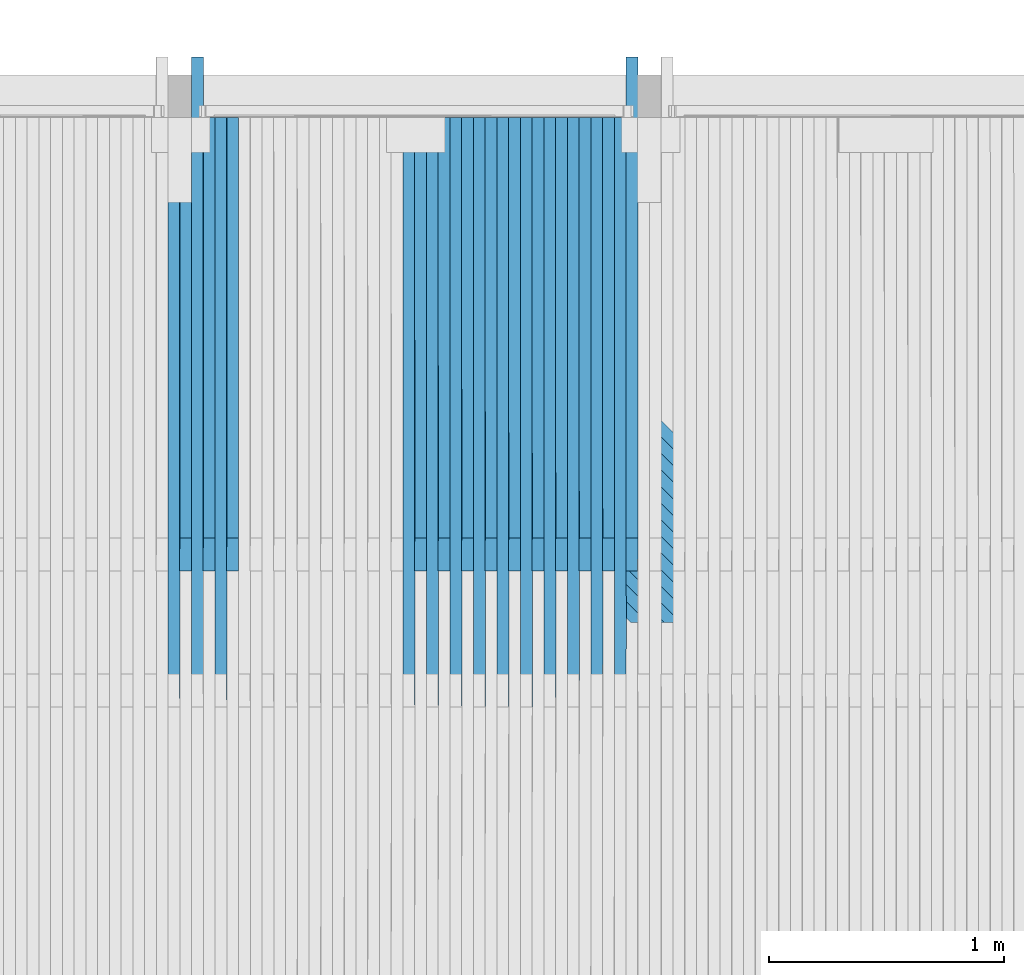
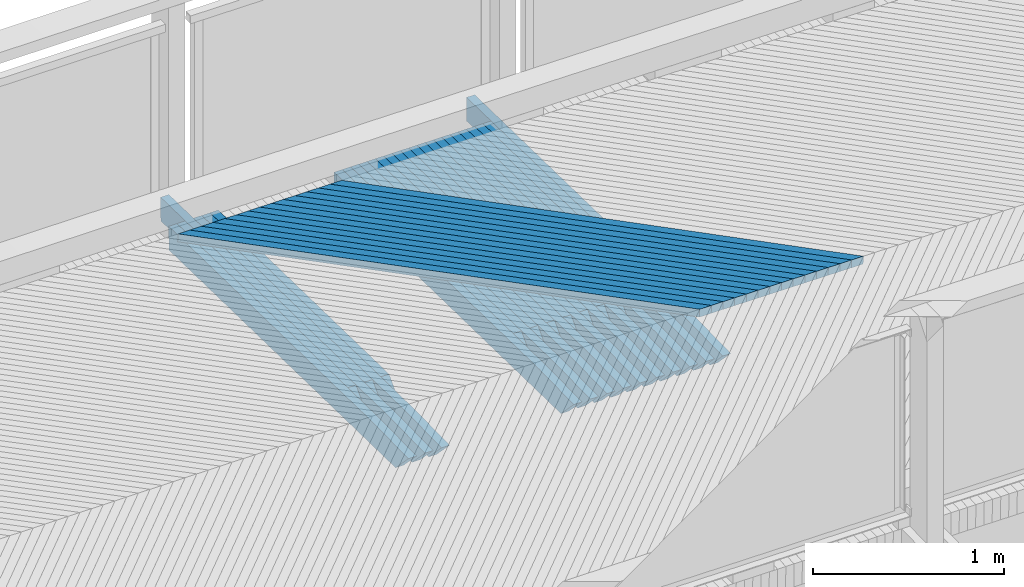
# One storey, part 37 of 65: 40 beams.
"""IFC2X3 building model written with IfcOpenShell, lengths in millimetres."""

from ifc_helpers import new_model, si_unit, frame, origin_with_axes, place, context, subcontext, project, spatial, faceted_brep, material, type_object, element, save


model = new_model("IFC2X3")

# Units and contexts
model_context = context("Model", 3, precision=1e-05, world=origin_with_axes())
body_context = subcontext(model_context, "Body", "Model", "MODEL_VIEW")
ifc_project = project(units=[si_unit("LENGTHUNIT", "METRE", prefix="MILLI"), si_unit("AREAUNIT", "SQUARE_METRE"), si_unit("VOLUMEUNIT", "CUBIC_METRE"), si_unit("MASSUNIT", "GRAM", prefix="KILO"), si_unit("TIMEUNIT", "SECOND"), si_unit("PLANEANGLEUNIT", "RADIAN"), si_unit("SOLIDANGLEUNIT", "STERADIAN"), si_unit("THERMODYNAMICTEMPERATUREUNIT", "DEGREE_CELSIUS"), si_unit("LUMINOUSINTENSITYUNIT", "LUMEN")], contexts=[model_context])

# Site, building, storey
site_placement = place(None, origin_with_axes())
site = spatial("IfcSite", under=ifc_project, at=site_placement, Name="Undefined", CompositionType="ELEMENT")
building_placement = place(site_placement, origin_with_axes())
building = spatial("IfcBuilding", under=site, at=building_placement, Name="Undefined", CompositionType="ELEMENT")
storey_placement = place(building_placement, origin_with_axes())
storey = spatial("IfcBuildingStorey", under=building, at=storey_placement, Name="Undefined", CompositionType="ELEMENT", Elevation=0.0)

# Beams
ifc_material = material(Name="TIMBER/Timber_Undefined")
beam_type_1 = type_object("IfcBeamType", Name="50*50", PredefinedType="NOTDEFINED")
for number, where, z_axis, x_axis, name in (
    (1, (12874.2769605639, 22365.4998996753, 3216.39230435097), (0.70698710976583, 0.706981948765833, -0.0185943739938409), (-0.707198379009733, 0.70694885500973, -0.0096834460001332), "BEAM"),
    (2, (12803.5550110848, 22365.4998996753, 3216.96068661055), (0.706989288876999, 0.706981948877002, -0.0185113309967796), (-0.707197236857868, 0.706948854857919, -0.00976651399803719), "BEAM"),
    (3, (12732.832995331, 22365.4998996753, 3217.52076181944), (0.706991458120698, 0.706981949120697, -0.0184282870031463), (-0.707196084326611, 0.706948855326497, -0.00984958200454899), "BEAM"),
    (4, (12662.1109142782, 22365.4998996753, 3218.07252996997), (0.706993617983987, 0.706981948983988, -0.0183452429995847), (-0.707194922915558, 0.706948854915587, -0.00993264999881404), "BEAM"),
    (5, (12591.3887689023, 22365.4998996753, 3218.61599105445), (0.706995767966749, 0.706981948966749, -0.0182621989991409), (-0.707193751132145, 0.706948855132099, -0.0100157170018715), "BEAM"),
    (6, (12520.666560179, 22365.4998996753, 3219.15114506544), (0.706997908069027, 0.706981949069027, -0.0181791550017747), (-0.707192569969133, 0.706948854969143, -0.0100987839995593), "BEAM"),
    (7, (12449.944289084, 22365.4998996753, 3219.67799199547), (0.707000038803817, 0.706981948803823, -0.0180961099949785), (-0.707191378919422, 0.706948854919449, -0.0101818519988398), "BEAM"),
    (8, (12379.2219565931, 22365.4998996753, 3220.19653183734), (0.70700215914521, 0.706981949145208, -0.0180130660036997), (-0.707190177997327, 0.706948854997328, -0.0102649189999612), "BEAM"),
    (9, (12308.499563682, 22365.4998996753, 3220.70676458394), (0.707004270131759, 0.706981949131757, -0.0179300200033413), (-0.707188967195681, 0.706948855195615, -0.0103479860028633), "BEAM"),
    (10, (12237.7771113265, 22365.4998996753, 3221.20869022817), (0.707006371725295, 0.706981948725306, -0.0178469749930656), (-0.707187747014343, 0.706948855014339, -0.0104310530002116), "BEAM"),
    (11, (12167.0546005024, 22365.4998996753, 3221.70230876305), (0.707008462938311, 0.706981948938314, -0.0177639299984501), (-0.70718651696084, 0.706948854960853, -0.0105141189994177), "BEAM"),
    (12, (12096.3320321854, 22365.4998996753, 3222.18762018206), (0.707010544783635, 0.706981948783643, -0.017680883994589), (-0.707185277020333, 0.706948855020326, -0.0105971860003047), "BEAM"),
    (13, (12025.6094073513, 22365.4998996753, 3222.66462447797), (0.70701261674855, 0.706981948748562, -0.0175978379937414), (-0.707184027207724, 0.706948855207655, -0.0106802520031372), "BEAM"),
    (14, (11954.8867269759, 22365.4998996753, 3223.13332164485), (0.707014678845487, 0.706981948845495, -0.0175147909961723), (-0.707182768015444, 0.706948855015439, -0.0107633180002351), "BEAM"),
):
    element("IfcBeam", number, at=place(storey_placement, frame(where, z_axis=z_axis, x_axis=x_axis)), inside=storey, type_object=beam_type_1, material=ifc_material, Name=name, ObjectType="50*50", context=body_context, shape_type="Brep", body=[
        faceted_brep([(23.5869248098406, 24.9999999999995, -24.9999999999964), (-26.4154158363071, 24.9999999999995, 24.9999999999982), (2802.92643296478, 25.0, 25.0), (2852.92877373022, 25.0000000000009, -25.0), (-25.0011704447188, -25.0, 24.9999999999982), (2804.34067830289, -25.0, 25.0000000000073), (25.0011701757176, -25.0000000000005, -24.9999999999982), (2854.34301907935, -24.9999999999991, -25.0000000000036)], [[[0, 1, 2, 3]], [[1, 4, 5, 2]], [[4, 6, 7, 5]], [[6, 0, 3, 7]], [[5, 7, 3, 2]], [[6, 4, 1, 0]]]),
    ])
beam_type_2 = type_object("IfcBeamType", Name="150*50", PredefinedType="NOTDEFINED")
for number, where, z_axis, x_axis, name in (
    (15, (11875.3256007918, 24513.4953923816, 3080.67367306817), (0.0063570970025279, 0.0199960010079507, 0.999779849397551), (0.000127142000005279, -0.99980006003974, 0.0199955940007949), "BEAM"),
    (16, (11775.3075869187, 24513.4953923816, 3081.30926986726), (0.00619097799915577, 0.019996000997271, 0.999780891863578), (0.000123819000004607, -0.999800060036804, 0.019995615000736), "BEAM"),
):
    element("IfcBeam", number, at=place(storey_placement, frame(where, z_axis=z_axis, x_axis=x_axis)), inside=storey, type_object=beam_type_2, material=ifc_material, Name=name, ObjectType="150*50", context=body_context, shape_type="Brep", body=[
        faceted_brep([(-1.6778358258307e-07, -24.9999999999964, -74.9999999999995), (-1.6778358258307e-07, 25.0000000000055, -75.0), (2375.00494422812, 25.0000000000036, -75.0), (2375.00494447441, -24.9999999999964, -74.9999999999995), (1.67790858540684e-07, -24.9999999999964, 75.0000000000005), (1.67790858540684e-07, 25.0000000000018, 74.9999999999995), (2150.42515052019, 25.0000000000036, 74.9999999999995), (2510.59248715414, 25.0000000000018, 60.5875433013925), (2510.59248714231, -24.9999999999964, 60.5875430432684), (2150.42514405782, -24.9999999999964, 75.0000000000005)], [[[0, 1, 2, 3]], [[0, 4, 5, 1]], [[2, 1, 5, 6, 7]], [[3, 2, 7, 8]], [[4, 0, 3, 8, 9]], [[5, 4, 9, 6]], [[8, 7, 6, 9]]]),
    ])
beam_1_placement = place(storey_placement, frame((11825.3266087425, 24513.4953923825, 3080.99122584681), z_axis=(0.0063570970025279, 0.0199960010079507, 0.999779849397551), x_axis=(0.000127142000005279, -0.99980006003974, 0.0199955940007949)))
element("IfcBeam", 17, at=beam_1_placement, inside=storey, type_object=beam_type_2, material=ifc_material, Name="BEAM", ObjectType="150*50", context=body_context, shape_type="Brep", body=[
    faceted_brep([(-1.6778358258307e-07, -24.9999999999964, -74.9999999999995), (1.67790858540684e-07, -24.9999999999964, 75.0000000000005), (1.67790858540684e-07, 25.0000000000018, 74.9999999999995), (-1.6778358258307e-07, 25.0000000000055, -75.0), (1789.96936408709, 24.9999999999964, 75.0), (1928.42646328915, 24.9999999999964, -75.0), (1928.42646353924, -25.0, -75.0000000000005), (1789.96936433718, -25.0000000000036, 74.9999999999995)], [[[0, 1, 2, 3]], [[3, 2, 4, 5]], [[0, 3, 5, 6]], [[1, 0, 6, 7]], [[2, 1, 7, 4]], [[5, 4, 7, 6]]]),
])
beam_2_placement = place(storey_placement, frame((11675.2894688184, 24513.4953923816, 3081.92824813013), z_axis=(0.00602485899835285, 0.0199960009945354, 0.9997819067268), x_axis=(0.000120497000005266, -0.9998000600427, 0.019995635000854)))
element("IfcBeam", 18, at=beam_2_placement, inside=storey, type_object=beam_type_2, material=ifc_material, Name="BEAM", ObjectType="150*50", context=body_context, shape_type="Brep", body=[
    faceted_brep([(-1.6778358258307e-07, -24.9999999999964, -74.9999999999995), (-1.6778358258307e-07, 25.0000000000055, -75.0), (2375.00494422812, 25.0000000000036, -75.0), (2375.00494447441, -24.9999999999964, -74.9999999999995), (1.67790858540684e-07, -24.9999999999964, 75.0000000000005), (1.67790858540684e-07, 25.0000000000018, 74.9999999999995), (2150.42515052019, 25.0000000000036, 74.9999999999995), (2510.59248715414, 25.0000000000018, 60.5875433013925), (2510.59248714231, -24.9999999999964, 60.5875430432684), (2150.42514405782, -24.9999999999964, 75.0000000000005)], [[[0, 1, 2, 3]], [[0, 4, 5, 1]], [[2, 1, 5, 6, 7]], [[3, 2, 7, 8]], [[4, 0, 3, 8, 9]], [[5, 4, 9, 6]], [[8, 7, 6, 9]]]),
])
beam_3_placement = place(storey_placement, frame((11725.3085427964, 24513.4953923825, 3081.61851504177), z_axis=(0.00619097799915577, 0.019996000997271, 0.999780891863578), x_axis=(0.000123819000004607, -0.999800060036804, 0.019995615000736)))
element("IfcBeam", 19, at=beam_3_placement, inside=storey, type_object=beam_type_2, material=ifc_material, Name="BEAM", ObjectType="150*50", context=body_context, shape_type="Brep", body=[
    faceted_brep([(-1.6778358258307e-07, -24.9999999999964, -74.9999999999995), (1.67790858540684e-07, -24.9999999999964, 75.0000000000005), (1.67790858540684e-07, 25.0000000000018, 74.9999999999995), (-1.6778358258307e-07, 25.0000000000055, -75.0), (1789.96936408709, 24.9999999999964, 75.0), (1928.42646328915, 24.9999999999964, -75.0), (1928.42646353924, -25.0, -75.0000000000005), (1789.96936433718, -25.0000000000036, 74.9999999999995)], [[[0, 1, 2, 3]], [[3, 2, 4, 5]], [[0, 3, 5, 6]], [[1, 0, 6, 7]], [[2, 1, 7, 4]], [[5, 4, 7, 6]]]),
])
beam_4_placement = place(storey_placement, frame((11575.2712492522, 24513.4953923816, 3082.53060783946), z_axis=(0.00585873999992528, 0.0199960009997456, 0.999782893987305), x_axis=(0.000117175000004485, -0.999800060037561, 0.0199956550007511)))
element("IfcBeam", 20, at=beam_4_placement, inside=storey, type_object=beam_type_2, material=ifc_material, Name="BEAM", ObjectType="150*50", context=body_context, shape_type="Brep", body=[
    faceted_brep([(-1.6778358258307e-07, -24.9999999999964, -74.9999999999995), (-1.6778358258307e-07, 25.0000000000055, -75.0), (2375.00494422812, 25.0000000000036, -75.0), (2375.00494447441, -24.9999999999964, -74.9999999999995), (1.67790858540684e-07, -24.9999999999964, 75.0000000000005), (1.67790858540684e-07, 25.0000000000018, 74.9999999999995), (2150.42515052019, 25.0000000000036, 74.9999999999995), (2510.59248715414, 25.0000000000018, 60.5875433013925), (2510.59248714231, -24.9999999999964, 60.5875430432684), (2150.42514405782, -24.9999999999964, 75.0000000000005)], [[[0, 1, 2, 3]], [[0, 4, 5, 1]], [[2, 1, 5, 6, 7]], [[3, 2, 7, 8]], [[4, 0, 3, 8, 9]], [[5, 4, 9, 6]], [[8, 7, 6, 9]]]),
])
beam_5_placement = place(storey_placement, frame((11625.2903740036, 24513.4953923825, 3082.22918569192), z_axis=(0.00602485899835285, 0.0199960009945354, 0.9997819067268), x_axis=(0.000120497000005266, -0.9998000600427, 0.019995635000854)))
element("IfcBeam", 21, at=beam_5_placement, inside=storey, type_object=beam_type_2, material=ifc_material, Name="BEAM", ObjectType="150*50", context=body_context, shape_type="Brep", body=[
    faceted_brep([(-1.6778358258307e-07, -24.9999999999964, -74.9999999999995), (1.67790858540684e-07, -24.9999999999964, 75.0000000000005), (1.67790858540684e-07, 25.0000000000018, 74.9999999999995), (-1.6778358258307e-07, 25.0000000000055, -75.0), (1789.96936408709, 24.9999999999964, 75.0), (1928.42646328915, 24.9999999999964, -75.0), (1928.42646353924, -25.0, -75.0000000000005), (1789.96936433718, -25.0000000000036, 74.9999999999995)], [[[0, 1, 2, 3]], [[3, 2, 4, 5]], [[0, 3, 5, 6]], [[1, 0, 6, 7]], [[2, 1, 7, 4]], [[5, 4, 7, 6]]]),
])
beam_6_placement = place(storey_placement, frame((11475.2529309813, 24513.4953923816, 3083.11634897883), z_axis=(0.00569262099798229, 0.0199960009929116, 0.999783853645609), x_axis=(0.000113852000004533, -0.999800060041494, 0.0199956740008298)))
element("IfcBeam", 22, at=beam_6_placement, inside=storey, type_object=beam_type_2, material=ifc_material, Name="BEAM", ObjectType="150*50", context=body_context, shape_type="Brep", body=[
    faceted_brep([(-1.6778358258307e-07, -24.9999999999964, -74.9999999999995), (-1.6778358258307e-07, 25.0000000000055, -75.0), (2375.00494422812, 25.0000000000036, -75.0), (2375.00494447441, -24.9999999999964, -74.9999999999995), (1.67790858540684e-07, -24.9999999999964, 75.0000000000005), (1.67790858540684e-07, 25.0000000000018, 74.9999999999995), (2150.42515052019, 25.0000000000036, 74.9999999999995), (2510.59248715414, 25.0000000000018, 60.5875433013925), (2510.59248714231, -24.9999999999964, 60.5875430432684), (2150.42514405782, -24.9999999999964, 75.0000000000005)], [[[0, 1, 2, 3]], [[0, 4, 5, 1]], [[2, 1, 5, 6, 7]], [[3, 2, 7, 8]], [[4, 0, 3, 8, 9]], [[5, 4, 9, 6]], [[8, 7, 6, 9]]]),
])
beam_7_placement = place(storey_placement, frame((11525.2721051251, 24513.4953923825, 3082.82323778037), z_axis=(0.00585873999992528, 0.0199960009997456, 0.999782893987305), x_axis=(0.000117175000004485, -0.999800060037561, 0.0199956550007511)))
element("IfcBeam", 23, at=beam_7_placement, inside=storey, type_object=beam_type_2, material=ifc_material, Name="BEAM", ObjectType="150*50", context=body_context, shape_type="Brep", body=[
    faceted_brep([(-1.6778358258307e-07, -24.9999999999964, -74.9999999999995), (1.67790858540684e-07, -24.9999999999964, 75.0000000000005), (1.67790858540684e-07, 25.0000000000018, 74.9999999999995), (-1.6778358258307e-07, 25.0000000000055, -75.0), (1789.96936408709, 24.9999999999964, 75.0), (1928.42646328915, 24.9999999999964, -75.0), (1928.42646353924, -25.0, -75.0000000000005), (1789.96936433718, -25.0000000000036, 74.9999999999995)], [[[0, 1, 2, 3]], [[3, 2, 4, 5]], [[0, 3, 5, 6]], [[1, 0, 6, 7]], [[2, 1, 7, 4]], [[5, 4, 7, 6]]]),
])
beam_8_placement = place(storey_placement, frame((11375.234516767, 24513.4953923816, 3083.68547153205), z_axis=(0.00552650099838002, 0.0199960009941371, 0.999784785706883), x_axis=(0.000110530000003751, -0.999800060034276, 0.0199956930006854)))
element("IfcBeam", 24, at=beam_8_placement, inside=storey, type_object=beam_type_2, material=ifc_material, Name="BEAM", ObjectType="150*50", context=body_context, shape_type="Brep", body=[
    faceted_brep([(-1.6778358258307e-07, -24.9999999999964, -74.9999999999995), (-1.6778358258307e-07, 25.0000000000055, -75.0), (2375.00494422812, 25.0000000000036, -75.0), (2375.00494447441, -24.9999999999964, -74.9999999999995), (1.67790858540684e-07, -24.9999999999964, 75.0000000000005), (1.67790858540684e-07, 25.0000000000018, 74.9999999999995), (2150.42515052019, 25.0000000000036, 74.9999999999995), (2510.59248715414, 25.0000000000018, 60.5875433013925), (2510.59248714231, -24.9999999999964, 60.5875430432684), (2150.42514405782, -24.9999999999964, 75.0000000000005)], [[[0, 1, 2, 3]], [[0, 4, 5, 1]], [[2, 1, 5, 6, 7]], [[3, 2, 7, 8]], [[4, 0, 3, 8, 9]], [[5, 4, 9, 6]], [[8, 7, 6, 9]]]),
])
beam_9_placement = place(storey_placement, frame((11425.2537389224, 24513.4953923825, 3083.4006712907), z_axis=(0.00569262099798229, 0.0199960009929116, 0.999783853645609), x_axis=(0.000113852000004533, -0.999800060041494, 0.0199956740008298)))
element("IfcBeam", 25, at=beam_9_placement, inside=storey, type_object=beam_type_2, material=ifc_material, Name="BEAM", ObjectType="150*50", context=body_context, shape_type="Brep", body=[
    faceted_brep([(-1.6778358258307e-07, -24.9999999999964, -74.9999999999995), (1.67790858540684e-07, -24.9999999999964, 75.0000000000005), (1.67790858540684e-07, 25.0000000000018, 74.9999999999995), (-1.6778358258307e-07, 25.0000000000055, -75.0), (1789.96936408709, 24.9999999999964, 75.0), (1928.42646328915, 24.9999999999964, -75.0), (1928.42646353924, -25.0, -75.0000000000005), (1789.96936433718, -25.0000000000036, 74.9999999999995)], [[[0, 1, 2, 3]], [[3, 2, 4, 5]], [[0, 3, 5, 6]], [[1, 0, 6, 7]], [[2, 1, 7, 4]], [[5, 4, 7, 6]]]),
])
beam_10_placement = place(storey_placement, frame((11275.2160093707, 24513.4953923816, 3084.23797548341), z_axis=(0.00536038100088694, 0.0199960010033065, 0.999785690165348), x_axis=(0.000107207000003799, -0.999800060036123, 0.0199957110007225)))
element("IfcBeam", 26, at=beam_10_placement, inside=storey, type_object=beam_type_2, material=ifc_material, Name="BEAM", ObjectType="150*50", context=body_context, shape_type="Brep", body=[
    faceted_brep([(-1.6778358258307e-07, -24.9999999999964, -74.9999999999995), (-1.6778358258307e-07, 25.0000000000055, -75.0), (2375.00494422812, 25.0000000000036, -75.0), (2375.00494447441, -24.9999999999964, -74.9999999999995), (1.67790858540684e-07, -24.9999999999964, 75.0000000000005), (1.67790858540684e-07, 25.0000000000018, 74.9999999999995), (2150.42515052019, 25.0000000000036, 74.9999999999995), (2510.59248715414, 25.0000000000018, 60.5875433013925), (2510.59248714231, -24.9999999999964, 60.5875430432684), (2150.42514405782, -24.9999999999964, 75.0000000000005)], [[[0, 1, 2, 3]], [[0, 4, 5, 1]], [[2, 1, 5, 6, 7]], [[3, 2, 7, 8]], [[4, 0, 3, 8, 9]], [[5, 4, 9, 6]], [[8, 7, 6, 9]]]),
])
beam_11_placement = place(storey_placement, frame((11325.2352781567, 24513.4953923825, 3083.96148620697), z_axis=(0.00552650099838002, 0.0199960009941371, 0.999784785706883), x_axis=(0.000110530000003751, -0.999800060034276, 0.0199956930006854)))
element("IfcBeam", 27, at=beam_11_placement, inside=storey, type_object=beam_type_2, material=ifc_material, Name="BEAM", ObjectType="150*50", context=body_context, shape_type="Brep", body=[
    faceted_brep([(-1.6778358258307e-07, -24.9999999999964, -74.9999999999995), (1.67790858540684e-07, -24.9999999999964, 75.0000000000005), (1.67790858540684e-07, 25.0000000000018, 74.9999999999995), (-1.6778358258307e-07, 25.0000000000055, -75.0), (1789.96936408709, 24.9999999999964, 75.0), (1928.42646328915, 24.9999999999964, -75.0), (1928.42646353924, -25.0, -75.0000000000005), (1789.96936433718, -25.0000000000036, 74.9999999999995)], [[[0, 1, 2, 3]], [[3, 2, 4, 5]], [[0, 3, 5, 6]], [[1, 0, 6, 7]], [[2, 1, 7, 4]], [[5, 4, 7, 6]]]),
])
beam_12_placement = place(storey_placement, frame((11175.1974115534, 24513.4953923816, 3084.77386081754), z_axis=(0.00519426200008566, 0.0199960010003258, 0.999786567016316), x_axis=(0.000103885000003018, -0.999800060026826, 0.0199957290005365)))
element("IfcBeam", 28, at=beam_12_placement, inside=storey, type_object=beam_type_2, material=ifc_material, Name="BEAM", ObjectType="150*50", context=body_context, shape_type="Brep", body=[
    faceted_brep([(-1.6778358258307e-07, -24.9999999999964, -74.9999999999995), (-1.6778358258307e-07, 25.0000000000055, -75.0), (2375.00494422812, 25.0000000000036, -75.0), (2375.00494447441, -24.9999999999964, -74.9999999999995), (1.67790858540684e-07, -24.9999999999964, 75.0000000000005), (1.67790858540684e-07, 25.0000000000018, 74.9999999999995), (2150.42515052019, 25.0000000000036, 74.9999999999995), (2510.59248715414, 25.0000000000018, 60.5875433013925), (2510.59248714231, -24.9999999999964, 60.5875430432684), (2150.42514405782, -24.9999999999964, 75.0000000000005)], [[[0, 1, 2, 3]], [[0, 4, 5, 1]], [[2, 1, 5, 6, 7]], [[3, 2, 7, 8]], [[4, 0, 3, 8, 9]], [[5, 4, 9, 6]], [[8, 7, 6, 9]]]),
])
beam_13_placement = place(storey_placement, frame((11225.2167255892, 24513.4953923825, 3084.50568251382), z_axis=(0.00536038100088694, 0.0199960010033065, 0.999785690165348), x_axis=(0.000107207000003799, -0.999800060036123, 0.0199957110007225)))
element("IfcBeam", 29, at=beam_13_placement, inside=storey, type_object=beam_type_2, material=ifc_material, Name="BEAM", ObjectType="150*50", context=body_context, shape_type="Brep", body=[
    faceted_brep([(-1.6778358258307e-07, -24.9999999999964, -74.9999999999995), (1.67790858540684e-07, -24.9999999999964, 75.0000000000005), (1.67790858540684e-07, 25.0000000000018, 74.9999999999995), (-1.6778358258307e-07, 25.0000000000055, -75.0), (1789.96936408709, 24.9999999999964, 75.0), (1928.42646328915, 24.9999999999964, -75.0), (1928.42646353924, -25.0, -75.0000000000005), (1789.96936433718, -25.0000000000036, 74.9999999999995)], [[[0, 1, 2, 3]], [[3, 2, 4, 5]], [[0, 3, 5, 6]], [[1, 0, 6, 7]], [[2, 1, 7, 4]], [[5, 4, 7, 6]]]),
])
beam_14_placement = place(storey_placement, frame((11075.1787260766, 24513.4953923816, 3085.29312751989), z_axis=(0.005028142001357, 0.0199960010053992, 0.999787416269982), x_axis=(0.000100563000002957, -0.999800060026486, 0.0199957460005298)))
element("IfcBeam", 30, at=beam_14_placement, inside=storey, type_object=beam_type_2, material=ifc_material, Name="BEAM", ObjectType="150*50", context=body_context, shape_type="Brep", body=[
    faceted_brep([(-1.6778358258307e-07, -24.9999999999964, -74.9999999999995), (-1.6778358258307e-07, 25.0000000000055, -75.0), (2375.00494422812, 25.0000000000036, -75.0), (2375.00494447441, -24.9999999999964, -74.9999999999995), (1.67790858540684e-07, -24.9999999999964, 75.0000000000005), (1.67790858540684e-07, 25.0000000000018, 74.9999999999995), (2150.42515052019, 25.0000000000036, 74.9999999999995), (2510.59248715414, 25.0000000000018, 60.5875433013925), (2510.59248714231, -24.9999999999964, 60.5875430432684), (2150.42514405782, -24.9999999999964, 75.0000000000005)], [[[0, 1, 2, 3]], [[0, 4, 5, 1]], [[2, 1, 5, 6, 7]], [[3, 2, 7, 8]], [[4, 0, 3, 8, 9]], [[5, 4, 9, 6]], [[8, 7, 6, 9]]]),
])
beam_15_placement = place(storey_placement, frame((11125.1980839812, 24513.4953923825, 3085.03326019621), z_axis=(0.00519426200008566, 0.0199960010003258, 0.999786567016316), x_axis=(0.000103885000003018, -0.999800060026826, 0.0199957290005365)))
element("IfcBeam", 31, at=beam_15_placement, inside=storey, type_object=beam_type_2, material=ifc_material, Name="BEAM", ObjectType="150*50", context=body_context, shape_type="Brep", body=[
    faceted_brep([(-1.6778358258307e-07, -24.9999999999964, -74.9999999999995), (1.67790858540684e-07, -24.9999999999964, 75.0000000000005), (1.67790858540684e-07, 25.0000000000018, 74.9999999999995), (-1.6778358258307e-07, 25.0000000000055, -75.0), (1789.96936408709, 24.9999999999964, 75.0), (1928.42646328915, 24.9999999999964, -75.0), (1928.42646353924, -25.0, -75.0000000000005), (1789.96936433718, -25.0000000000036, 74.9999999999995)], [[[0, 1, 2, 3]], [[3, 2, 4, 5]], [[0, 3, 5, 6]], [[1, 0, 6, 7]], [[2, 1, 7, 4]], [[5, 4, 7, 6]]]),
])
beam_16_placement = place(storey_placement, frame((10975.1599557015, 24513.4953923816, 3085.79577557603), z_axis=(0.00486202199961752, 0.0199960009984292, 0.999788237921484), x_axis=(9.72400000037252e-05, -0.999800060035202, 0.019995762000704)))
element("IfcBeam", 32, at=beam_16_placement, inside=storey, type_object=beam_type_2, material=ifc_material, Name="BEAM", ObjectType="150*50", context=body_context, shape_type="Brep", body=[
    faceted_brep([(-1.6778358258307e-07, -24.9999999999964, -74.9999999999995), (-1.6778358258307e-07, 25.0000000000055, -75.0), (2375.00494422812, 25.0000000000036, -75.0), (2375.00494447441, -24.9999999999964, -74.9999999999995), (1.67790858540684e-07, -24.9999999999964, 75.0000000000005), (1.67790858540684e-07, 25.0000000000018, 74.9999999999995), (2150.42515052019, 25.0000000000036, 74.9999999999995), (2510.59248715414, 25.0000000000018, 60.5875433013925), (2510.59248714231, -24.9999999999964, 60.5875430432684), (2150.42514405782, -24.9999999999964, 75.0000000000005)], [[[0, 1, 2, 3]], [[0, 4, 5, 1]], [[2, 1, 5, 6, 7]], [[3, 2, 7, 8]], [[4, 0, 3, 8, 9]], [[5, 4, 9, 6]], [[8, 7, 6, 9]]]),
])
beam_17_placement = place(storey_placement, frame((11025.179356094, 24513.4953923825, 3085.5442192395), z_axis=(0.005028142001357, 0.0199960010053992, 0.999787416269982), x_axis=(0.000100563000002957, -0.999800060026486, 0.0199957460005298)))
element("IfcBeam", 33, at=beam_17_placement, inside=storey, type_object=beam_type_2, material=ifc_material, Name="BEAM", ObjectType="150*50", context=body_context, shape_type="Brep", body=[
    faceted_brep([(-1.6778358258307e-07, -24.9999999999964, -74.9999999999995), (1.67790858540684e-07, -24.9999999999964, 75.0000000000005), (1.67790858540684e-07, 25.0000000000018, 74.9999999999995), (-1.6778358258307e-07, 25.0000000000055, -75.0), (1789.96936408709, 24.9999999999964, 75.0), (1928.42646328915, 24.9999999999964, -75.0), (1928.42646353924, -25.0, -75.0000000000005), (1789.96936433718, -25.0000000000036, 74.9999999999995)], [[[0, 1, 2, 3]], [[3, 2, 4, 5]], [[0, 3, 5, 6]], [[1, 0, 6, 7]], [[2, 1, 7, 4]], [[5, 4, 7, 6]]]),
])
beam_18_placement = place(storey_placement, frame((10175.0070677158, 24513.4953923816, 3089.21868718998), z_axis=(0.00353305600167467, 0.0199960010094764, 0.999793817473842), x_axis=(7.06610000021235e-05, -0.999800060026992, 0.0199958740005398)))
element("IfcBeam", 34, at=beam_18_placement, inside=storey, type_object=beam_type_2, material=ifc_material, Name="BEAM", ObjectType="150*50", context=body_context, shape_type="Brep", body=[
    faceted_brep([(-1.6778358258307e-07, -24.9999999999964, -74.9999999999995), (-1.6778358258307e-07, 25.0000000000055, -75.0), (2375.00494422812, 25.0000000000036, -75.0), (2375.00494447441, -24.9999999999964, -74.9999999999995), (1.67790858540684e-07, -24.9999999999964, 75.0000000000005), (1.67790858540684e-07, 25.0000000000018, 74.9999999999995), (2150.42515052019, 25.0000000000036, 74.9999999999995), (2510.59248715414, 25.0000000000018, 60.5875433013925), (2510.59248714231, -24.9999999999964, 60.5875430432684), (2150.42514405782, -24.9999999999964, 75.0000000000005)], [[[0, 1, 2, 3]], [[0, 4, 5, 1]], [[2, 1, 5, 6, 7]], [[3, 2, 7, 8]], [[4, 0, 3, 8, 9]], [[5, 4, 9, 6]], [[8, 7, 6, 9]]]),
])
for number, where, z_axis, x_axis, name in (
    (35, (10225.0267582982, 24513.4953923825, 3089.03361898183), (0.00369917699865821, 0.0199960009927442, 0.999793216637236), (7.39830000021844e-05, -0.999800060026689, 0.0199958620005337), "BEAM"),
    (36, (10125.0073781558, 24513.4953923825, 3089.39500969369), (0.00353305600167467, 0.0199960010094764, 0.999793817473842), (7.06610000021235e-05, -0.999800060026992, 0.0199958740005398), "BEAM"),
):
    element("IfcBeam", number, at=place(storey_placement, frame(where, z_axis=z_axis, x_axis=x_axis)), inside=storey, type_object=beam_type_2, material=ifc_material, Name=name, ObjectType="150*50", context=body_context, shape_type="Brep", body=[
        faceted_brep([(-1.6778358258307e-07, -24.9999999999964, -74.9999999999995), (1.67790858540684e-07, -24.9999999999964, 75.0000000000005), (1.67790858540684e-07, 25.0000000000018, 74.9999999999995), (-1.6778358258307e-07, 25.0000000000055, -75.0), (1789.96936408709, 24.9999999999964, 75.0), (1928.42646328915, 24.9999999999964, -75.0), (1928.42646353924, -25.0, -75.0000000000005), (1789.96936433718, -25.0000000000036, 74.9999999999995)], [[[0, 1, 2, 3]], [[3, 2, 4, 5]], [[0, 3, 5, 6]], [[1, 0, 6, 7]], [[2, 1, 7, 4]], [[5, 4, 7, 6]]]),
    ])
beam_19_placement = place(storey_placement, frame((9974.96819002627, 24513.4953923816, 3089.90822776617), z_axis=(0.00320081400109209, 0.0199960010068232, 0.999794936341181), x_axis=(6.40160000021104e-05, -0.999800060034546, 0.0199958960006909)))
element("IfcBeam", 37, at=beam_19_placement, inside=storey, type_object=beam_type_2, material=ifc_material, Name="BEAM", ObjectType="150*50", context=body_context, shape_type="Brep", body=[
    faceted_brep([(-1.6778358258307e-07, -24.9999999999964, -74.9999999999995), (-1.6778358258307e-07, 25.0000000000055, -75.0), (2375.00494422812, 25.0000000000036, -75.0), (2375.00494447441, -24.9999999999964, -74.9999999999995), (1.67790858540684e-07, -24.9999999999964, 75.0000000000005), (1.67790858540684e-07, 25.0000000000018, 74.9999999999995), (2150.42515052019, 25.0000000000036, 74.9999999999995), (2510.59248715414, 25.0000000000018, 60.5875433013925), (2510.59248714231, -24.9999999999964, 60.5875430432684), (2150.42514405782, -24.9999999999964, 75.0000000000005)], [[[0, 1, 2, 3]], [[0, 4, 5, 1]], [[2, 1, 5, 6, 7]], [[3, 2, 7, 8]], [[4, 0, 3, 8, 9]], [[5, 4, 9, 6]], [[8, 7, 6, 9]]]),
])
beam_20_placement = place(storey_placement, frame((10024.987939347, 24513.4953923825, 3089.73978164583), z_axis=(0.00336693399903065, 0.0199960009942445, 0.999794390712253), x_axis=(6.73390000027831e-05, -0.999800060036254, 0.0199958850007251)))
element("IfcBeam", 38, at=beam_20_placement, inside=storey, type_object=beam_type_2, material=ifc_material, Name="BEAM", ObjectType="150*50", context=body_context, shape_type="Brep", body=[
    faceted_brep([(-1.6778358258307e-07, -24.9999999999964, -74.9999999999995), (1.67790858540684e-07, -24.9999999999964, 75.0000000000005), (1.67790858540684e-07, 25.0000000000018, 74.9999999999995), (-1.6778358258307e-07, 25.0000000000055, -75.0), (1789.96936408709, 24.9999999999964, 75.0), (1928.42646328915, 24.9999999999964, -75.0), (1928.42646353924, -25.0, -75.0000000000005), (1789.96936433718, -25.0000000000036, 74.9999999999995)], [[[0, 1, 2, 3]], [[3, 2, 4, 5]], [[0, 3, 5, 6]], [[1, 0, 6, 7]], [[2, 1, 7, 4]], [[5, 4, 7, 6]]]),
])
beam_21_placement = place(storey_placement, frame((11924.879680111, 24771.443807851, 3075.18895562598), z_axis=(0.0065221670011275, 0.0199960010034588, 0.999778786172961), x_axis=(0.000130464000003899, -0.999800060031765, 0.0199955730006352)))
element("IfcBeam", 39, at=beam_21_placement, inside=storey, type_object=beam_type_2, material=ifc_material, Name="BEAM", ObjectType="150*50", context=body_context, shape_type="Brep", body=[
    faceted_brep([(-1.6778358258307e-07, -24.9999999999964, -74.9999999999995), (1.67790858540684e-07, -24.9999999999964, 75.0000000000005), (1.67790858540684e-07, 25.0000000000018, 74.9999999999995), (-1.6778358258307e-07, 25.0000000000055, -75.0), (2047.9693678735, 24.9999999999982, 75.0), (2186.42646676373, 24.9999999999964, -74.9999999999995), (2186.42645144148, -25.0000000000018, -75.0), (2047.96935255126, -25.0000000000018, 75.0000000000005)], [[[0, 1, 2, 3]], [[3, 2, 4, 5]], [[0, 3, 5, 6]], [[1, 0, 6, 7]], [[2, 1, 7, 4]], [[5, 4, 7, 6]]]),
])
beam_22_placement = place(storey_placement, frame((10075.0449693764, 24771.443807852, 3084.41228108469), z_axis=(0.00336693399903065, 0.0199960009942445, 0.999794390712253), x_axis=(6.73390000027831e-05, -0.999800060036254, 0.0199958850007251)))
element("IfcBeam", 40, at=beam_22_placement, inside=storey, type_object=beam_type_2, material=ifc_material, Name="BEAM", ObjectType="150*50", context=body_context, shape_type="Brep", body=[
    faceted_brep([(-1.6778358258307e-07, -24.9999999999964, -74.9999999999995), (-1.6778358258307e-07, 25.0000000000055, -75.0), (2633.00494750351, 24.9999999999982, -74.9999999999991), (2633.00494763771, -25.0000000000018, -74.9999999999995), (1.67790858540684e-07, -24.9999999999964, 75.0000000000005), (1.67790858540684e-07, 25.0000000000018, 74.9999999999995), (2408.42506824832, 24.9999999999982, 75.0000000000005), (2768.59248710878, 24.9999999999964, 60.587539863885), (2768.59248713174, -25.0000000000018, 60.5875397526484), (2408.42506549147, -25.0000000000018, 75.0000000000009)], [[[0, 1, 2, 3]], [[0, 4, 5, 1]], [[2, 1, 5, 6, 7]], [[3, 2, 7, 8]], [[4, 0, 3, 8, 9]], [[5, 4, 9, 6]], [[8, 7, 6, 9]]]),
])

save(model, "model.ifc")
